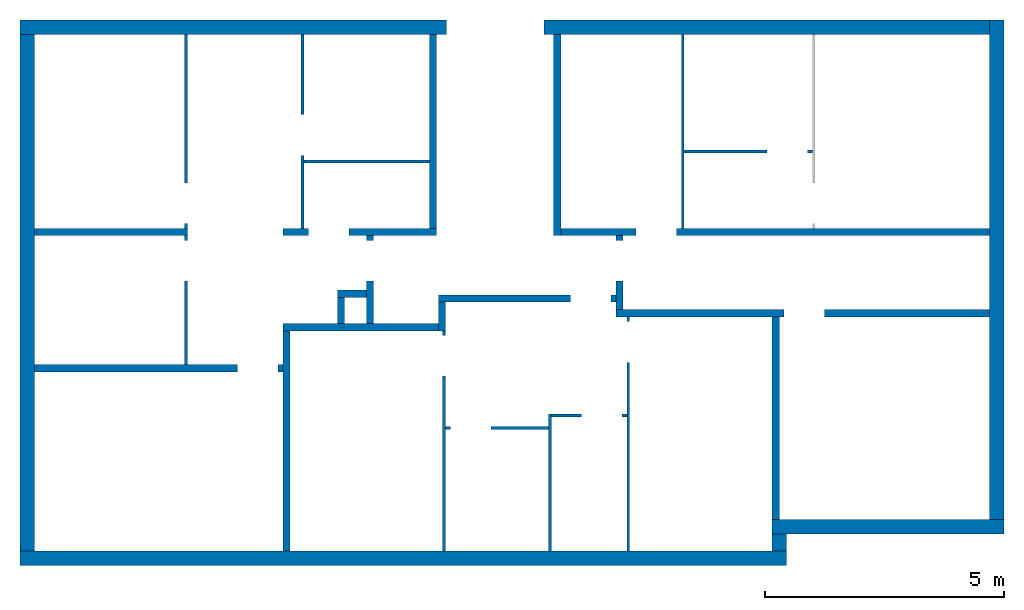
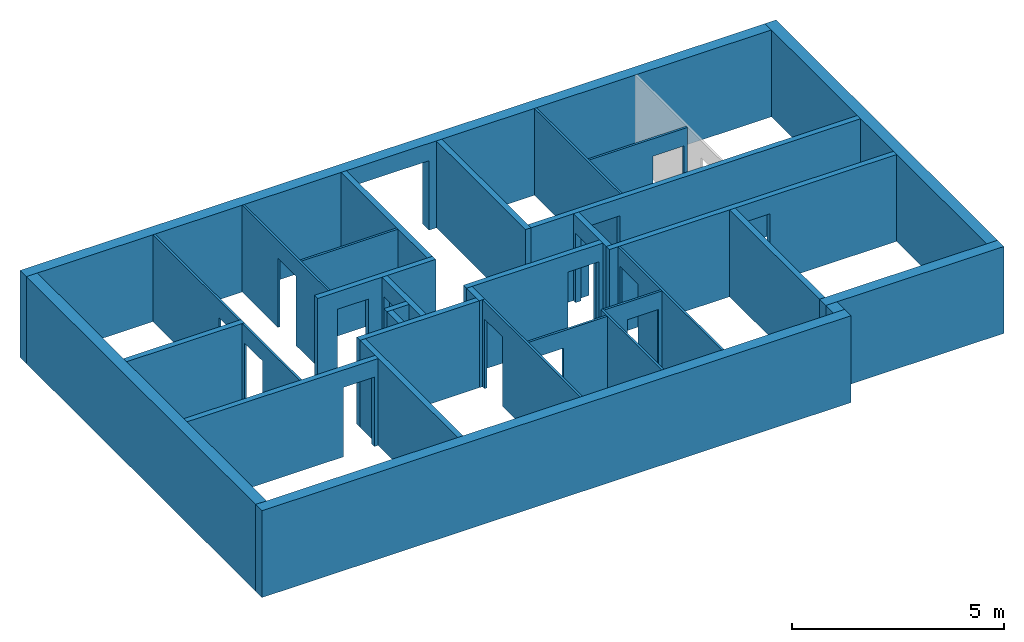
# One storey, part 1 of 2: 33 walls, 16 openings.
"""IFC2X3 building model written with IfcOpenShell, lengths in metres."""

from ifc_helpers import new_model, entity, si_unit, converted_unit, derived_unit, direction, frame, frame_2d, origin, origin_with_axes, place, context, subcontext, project, spatial, polyline, rectangle, outline, extrude, faceted_brep, material, layer, layer_set, layer_usage, element, save


model = new_model("IFC2X3")

# Units and contexts
model_context = context("Model", 3, precision=1e-05, world=origin(), true_north=direction((0.772621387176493, -0.634867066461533)))
body_context = subcontext(model_context, "Body", "Model", "MODEL_VIEW")
ifc_project = project(units=[si_unit("LENGTHUNIT", "METRE"), si_unit("AREAUNIT", "SQUARE_METRE"), si_unit("VOLUMEUNIT", "CUBIC_METRE"), si_unit("MASSUNIT", "GRAM", prefix="KILO"), converted_unit("PLANEANGLEUNIT", "DEGREE", entity("IfcPlaneAngleMeasure", 0.0174532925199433), si_unit("PLANEANGLEUNIT", "RADIAN"), dimensions=[0, 0, 0, 0, 0, 0, 0]), derived_unit("THERMALTRANSMITTANCEUNIT", [(si_unit("POWERUNIT", "WATT"), 1), (si_unit("THERMODYNAMICTEMPERATUREUNIT", "KELVIN"), -1), (si_unit("LENGTHUNIT", "METRE"), -2)]), derived_unit("VOLUMETRICFLOWRATEUNIT", [(si_unit("LENGTHUNIT", "METRE"), 3), (converted_unit("TIMEUNIT", "hour", entity("IfcTimeMeasure", 3600.0), si_unit("TIMEUNIT", "SECOND"), dimensions=[0, 0, 1, 0, 0, 0, 0]), -1), (si_unit("LENGTHUNIT", "METRE"), -1)])], contexts=[model_context])

# Site, building, storey
site_placement = place(None, origin())
site = spatial("IfcSite", under=ifc_project, at=site_placement, Name="Modelle auf dem Nullpunkt", CompositionType="ELEMENT")
building_placement = place(site_placement, origin())
building = spatial("IfcBuilding", under=site, at=building_placement, Name="H", CompositionType="ELEMENT")
storey_placement = place(building_placement, origin())
storey = spatial("IfcBuildingStorey", under=building, at=storey_placement, Name="EG", CompositionType="ELEMENT", Elevation=0.0)

# Walls
ifc_material_1 = material(Name="Béton")
ifc_layer_1 = layer(ifc_material_1, 0.300000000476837)
ifc_layer_set_1 = layer_set([ifc_layer_1])
ifc_layer_usage_1 = layer_usage(ifc_layer_set_1, "AXIS2", "POSITIVE", -8.82606763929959e-25)
wall_1_placement = place(storey_placement, frame((27.0338677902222, 2.22260620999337, 437.66), z_axis=(0.0, 0.0, 1.0), x_axis=(8.82214908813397e-11, -1.0, 0.0)))
element("IfcWallStandardCase", 1, at=wall_1_placement, inside=storey, material=ifc_layer_usage_1, Name="Betonwand", context=body_context, shape_type="SweptSolid", body=[
    extrude(rectangle(XDim=10.8099999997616, YDim=0.300000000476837, at=frame_2d((5.4049999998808, 0.150000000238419), x_axis=(1.0, 0.0))), origin_with_axes(), (0.0, 0.0, 1.0), 2.49999999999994),
])
ifc_material_2 = material(Name="Béton")
ifc_layer_2 = layer(ifc_material_2, 0.300000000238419)
ifc_layer_set_2 = layer_set([ifc_layer_2])
ifc_layer_usage_2 = layer_usage(ifc_layer_set_2, "AXIS2", "POSITIVE", 0.0)
wall_2_placement = place(storey_placement, frame((27.0338677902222, -8.88739379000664, 437.66), z_axis=(0.0, 0.0, 1.0), x_axis=(1.0, 8.92396428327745e-11, 0.0)))
element("IfcWallStandardCase", 2, at=wall_2_placement, inside=storey, material=ifc_layer_usage_2, Name="Betonwand", context=body_context, shape_type="SweptSolid", body=[
    extrude(rectangle(XDim=16.03, YDim=0.300000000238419, at=frame_2d((8.015, 0.150000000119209), x_axis=(1.0, 0.0))), origin_with_axes(), (0.0, 0.0, 1.0), 2.49999999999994),
])
ifc_material_3 = material(Name="Béton")
ifc_layer_3 = layer(ifc_material_3, 0.3)
ifc_layer_set_3 = layer_set([ifc_layer_3])
ifc_layer_usage_3 = layer_usage(ifc_layer_set_3, "AXIS2", "POSITIVE", -2.48907781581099e-20)
wall_3_placement = place(storey_placement, frame((42.7638677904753, -8.22739379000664, 437.66), z_axis=(0.0, 0.0, 1.0), x_axis=(1.0, 9.83169398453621e-11, 0.0)))
element("IfcWallStandardCase", 3, at=wall_3_placement, inside=storey, material=ifc_layer_usage_3, Name="Betonwand", context=body_context, shape_type="SweptSolid", body=[
    extrude(rectangle(XDim=4.84999999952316, YDim=0.3, at=frame_2d((2.42499999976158, 0.15), x_axis=(1.0, 0.0))), origin_with_axes(), (0.0, 0.0, 1.0), 2.49999999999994),
])
ifc_material_4 = material(Name="Béton")
ifc_layer_4 = layer(ifc_material_4, 0.3)
ifc_layer_set_4 = layer_set([ifc_layer_4])
ifc_layer_usage_4 = layer_usage(ifc_layer_set_4, "AXIS2", "POSITIVE", -1.3508308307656e-20)
wall_4_placement = place(storey_placement, frame((47.6138677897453, -7.92739379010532, 437.66), z_axis=(0.0, 0.0, 1.0), x_axis=(-1.36891050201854e-10, 1.0, 0.0)))
element("IfcWallStandardCase", 4, at=wall_4_placement, inside=storey, material=ifc_layer_usage_4, Name="Betonwand", context=body_context, shape_type="SweptSolid", body=[
    extrude(rectangle(XDim=10.45, YDim=0.3, at=frame_2d((5.225, 0.15), x_axis=(1.0, 0.0))), origin_with_axes(), (0.0, 0.0, 1.0), 2.49999999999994),
])
ifc_material_5 = material(Name="Béton")
ifc_layer_5 = layer(ifc_material_5, 0.299999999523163)
ifc_layer_set_5 = layer_set([ifc_layer_5])
ifc_layer_usage_5 = layer_usage(ifc_layer_set_5, "AXIS2", "POSITIVE", 0.0)
wall_5_placement = place(storey_placement, frame((43.0638677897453, -8.58739378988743, 437.66), z_axis=(0.0, 0.0, 1.0), x_axis=(0.0, 1.0, 0.0)))
element("IfcWallStandardCase", 5, at=wall_5_placement, inside=storey, material=ifc_layer_usage_5, Name="Betonwand", context=body_context, shape_type="SweptSolid", body=[
    extrude(rectangle(XDim=0.36, YDim=0.299999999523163, at=frame_2d((0.18, 0.149999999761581), x_axis=(1.0, 0.0))), origin_with_axes(), (0.0, 0.0, 1.0), 2.49999999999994),
])
ifc_material_6 = material(Name="Brique")
ifc_layer_6 = layer(ifc_material_6, 0.15)
ifc_layer_set_6 = layer_set([ifc_layer_6])
ifc_layer_usage_6 = layer_usage(ifc_layer_set_6, "AXIS2", "POSITIVE", 0.0)
wall_6_placement = place(storey_placement, frame((30.5393677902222, -1.83739379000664, 437.66), z_axis=(0.0, 0.0, 1.0), x_axis=(-1.0, 0.0, 0.0)))
element("IfcWallStandardCase", 6, at=wall_6_placement, inside=storey, material=ifc_layer_usage_6, context=body_context, shape_type="SweptSolid", body=[
    extrude(rectangle(XDim=3.2055, YDim=0.15, at=frame_2d((1.60275, 0.075), x_axis=(1.0, 0.0))), origin_with_axes(), (0.0, 0.0, 1.0), 2.49999999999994),
])
ifc_material_7 = material(Name="Brique")
ifc_layer_7 = layer(ifc_material_7, 0.15)
ifc_layer_set_7 = layer_set([ifc_layer_7])
ifc_layer_usage_7 = layer_usage(ifc_layer_set_7, "AXIS2", "POSITIVE", 0.0)
wall_7_placement = place(storey_placement, frame((35.7493677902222, -1.83739379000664, 437.66), z_axis=(0.0, 0.0, 1.0), x_axis=(-1.17447575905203e-10, 1.0, 0.0)))
element("IfcWallStandardCase", 7, at=wall_7_placement, inside=storey, material=ifc_layer_usage_7, context=body_context, shape_type="SweptSolid", body=[
    extrude(rectangle(XDim=4.06000000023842, YDim=0.15, at=frame_2d((2.03000000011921, 0.075), x_axis=(1.0, 0.0))), origin_with_axes(), (0.0, 0.0, 1.0), 2.49999999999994),
])
ifc_material_8 = material(Name="Brique")
ifc_layer_8 = layer(ifc_material_8, 0.15)
ifc_layer_set_8 = layer_set([ifc_layer_8])
ifc_layer_usage_8 = layer_usage(ifc_layer_set_8, "AXIS2", "POSITIVE", 0.0)
wall_8_placement = place(storey_placement, frame((42.7638677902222, -3.68739379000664, 437.66), z_axis=(0.0, 0.0, 1.0), x_axis=(1.12461593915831e-10, -1.0, 0.0)))
element("IfcWallStandardCase", 8, at=wall_8_placement, inside=storey, material=ifc_layer_usage_8, context=body_context, shape_type="SweptSolid", body=[
    extrude(rectangle(XDim=4.24, YDim=0.15, at=frame_2d((2.12, 0.075), x_axis=(1.0, 0.0))), origin_with_axes(), (0.0, 0.0, 1.0), 2.49999999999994),
])
ifc_material_9 = material(Name="Brique")
ifc_layer_9 = layer(ifc_material_9, 0.150000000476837)
ifc_layer_set_9 = layer_set([ifc_layer_9])
ifc_layer_usage_9 = layer_usage(ifc_layer_set_9, "AXIS2", "POSITIVE", 0.0)
wall_9_placement = place(storey_placement, frame((32.6843677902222, -8.58739379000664, 437.66), z_axis=(0.0, 0.0, 1.0), x_axis=(0.0, 1.0, 0.0)))
element("IfcWallStandardCase", 9, at=wall_9_placement, inside=storey, material=ifc_layer_usage_9, context=body_context, shape_type="SweptSolid", body=[
    extrude(rectangle(XDim=4.61, YDim=0.150000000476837, at=frame_2d((2.305, 0.0750000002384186), x_axis=(1.0, 0.0))), origin_with_axes(), (0.0, 0.0, 1.0), 2.49999999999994),
])
ifc_material_10 = material(Name="Brique")
ifc_layer_10 = layer(ifc_material_10, 0.15)
ifc_layer_set_10 = layer_set([ifc_layer_10])
ifc_layer_usage_10 = layer_usage(ifc_layer_set_10, "AXIS2", "POSITIVE", -1.25393518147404e-20)
wall_10_placement = place(storey_placement, frame((38.1938677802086, 2.22260621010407, 437.66), z_axis=(0.0, 0.0, 1.0), x_axis=(1.1326298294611e-10, -1.0, 0.0)))
element("IfcWallStandardCase", 10, at=wall_10_placement, inside=storey, material=ifc_layer_usage_10, context=body_context, shape_type="SweptSolid", body=[
    extrude(rectangle(XDim=4.21, YDim=0.15, at=frame_2d((2.105, 0.075), x_axis=(1.0, 0.0))), origin_with_axes(), (0.0, 0.0, 1.0), 2.49999999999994),
])
ifc_material_11 = material(Name="Brique")
ifc_layer_11 = layer(ifc_material_11, 0.15)
ifc_layer_set_11 = layer_set([ifc_layer_11])
ifc_layer_usage_11 = layer_usage(ifc_layer_set_11, "AXIS2", "POSITIVE", 0.0)
wall_11_placement = place(storey_placement, frame((35.9338677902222, -3.97739379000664, 437.66), z_axis=(0.0, 0.0, 1.0), x_axis=(0.0, 1.0, 0.0)))
element("IfcWallStandardCase", 11, at=wall_11_placement, inside=storey, material=ifc_layer_usage_11, context=body_context, shape_type="SweptSolid", body=[
    extrude(rectangle(XDim=0.6, YDim=0.15, at=frame_2d((0.3, 0.075), x_axis=(1.0, 0.0))), origin_with_axes(), (0.0, 0.0, 1.0), 2.49999999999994),
])

# Wall, opening
ifc_material_12 = material(Name="Brique")
ifc_layer_12 = layer(ifc_material_12, 0.15)
ifc_layer_set_12 = layer_set([ifc_layer_12])
ifc_layer_usage_12 = layer_usage(ifc_layer_set_12, "AXIS2", "POSITIVE", 0.0)
wall_12_placement = place(storey_placement, frame((39.4938677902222, -1.98739378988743, 437.66), z_axis=(0.0, 0.0, 1.0), x_axis=(0.0, -1.0, 0.0)))
wall_12 = element("IfcWallStandardCase", 12, at=wall_12_placement, inside=storey, material=ifc_layer_usage_12, context=body_context, shape_type="SweptSolid", body=[
    extrude(rectangle(XDim=1.55000000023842, YDim=0.15, at=frame_2d((0.77500000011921, 0.075), x_axis=(1.0, 0.0))), origin_with_axes(), (0.0, 0.0, 1.0), 2.49999999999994),
])
opening_1_placement = place(wall_12_placement, frame((0.100000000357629, 0.0, 0.0), z_axis=(0.0, 1.0, 0.0), x_axis=(0.0, 0.0, 1.0)))
element("IfcOpeningElement", 13, at=opening_1_placement, cuts=wall_12, Name="Türöffnung", ObjectType="Opening", context=body_context, shape_type="SweptSolid", body=[
    extrude(outline(polyline([(2.0, 0.85), (2.0, 0.0), (0.0, 0.0), (0.0, 0.85), (2.0, 0.85)])), origin_with_axes(), (0.0, 0.0, 1.0), 0.15),
])

ifc_material_13 = material(Name="Brique")
ifc_layer_13 = layer(ifc_material_13, 0.15)
ifc_layer_set_13 = layer_set([ifc_layer_13])
ifc_layer_usage_13 = layer_usage(ifc_layer_set_13, "AXIS2", "POSITIVE", 0.0)
wall_13_placement = place(storey_placement, frame((35.7493677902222, -1.83739379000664, 437.66), z_axis=(0.0, 0.0, 1.0), x_axis=(-1.0, 0.0, 0.0)))
wall_13 = element("IfcWallStandardCase", 14, at=wall_13_placement, inside=storey, material=ifc_layer_usage_13, context=body_context, shape_type="SweptSolid", body=[
    extrude(rectangle(XDim=3.215, YDim=0.15, at=frame_2d((1.6075, 0.075), x_axis=(1.0, 0.0))), origin_with_axes(), (0.0, 0.0, 1.0), 2.49999999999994),
])
opening_2_placement = place(wall_13_placement, frame((1.83, 0.0, 0.0), z_axis=(0.0, 1.0, 0.0), x_axis=(0.0, 0.0, 1.0)))
element("IfcOpeningElement", 15, at=opening_2_placement, cuts=wall_13, Name="Türöffnung", ObjectType="Opening", context=body_context, shape_type="SweptSolid", body=[
    extrude(outline(polyline([(2.0, 0.850000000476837), (2.0, 0.0), (0.0, 0.0), (0.0, 0.850000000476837), (2.0, 0.850000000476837)])), origin_with_axes(), (0.0, 0.0, 1.0), 0.15),
])

# Walls
ifc_material_14 = material(Name="Brique")
ifc_layer_14 = layer(ifc_material_14, 0.15)
ifc_layer_set_14 = layer_set([ifc_layer_14])
ifc_layer_usage_14 = layer_usage(ifc_layer_set_14, "AXIS2", "POSITIVE", -1.67794221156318e-16)
wall_14_placement = place(storey_placement, frame((32.5343677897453, -3.97739379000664, 437.66), z_axis=(0.0, 0.0, 1.0), x_axis=(1.0, 7.33708506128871e-11, 0.0)))
element("IfcWallStandardCase", 16, at=wall_14_placement, inside=storey, material=ifc_layer_usage_14, context=body_context, shape_type="SweptSolid", body=[
    extrude(rectangle(XDim=3.24950000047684, YDim=0.15, at=frame_2d((1.62475000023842, 0.075), x_axis=(1.0, 0.0))), origin_with_axes(), (0.0, 0.0, 1.0), 2.49999999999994),
])
ifc_material_15 = material(Name="Brique")
ifc_layer_15 = layer(ifc_material_15, 0.15)
ifc_layer_set_15 = layer_set([ifc_layer_15])
ifc_layer_usage_15 = layer_usage(ifc_layer_set_15, "AXIS2", "POSITIVE", 0.0)
wall_15_placement = place(storey_placement, frame((33.8243677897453, -3.82739379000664, 437.66), z_axis=(0.0, 0.0, 1.0), x_axis=(0.0, 1.0, 0.0)))
element("IfcWallStandardCase", 17, at=wall_15_placement, inside=storey, material=ifc_layer_usage_15, context=body_context, shape_type="SweptSolid", body=[
    extrude(rectangle(XDim=0.55, YDim=0.15, at=frame_2d((0.275, 0.075), x_axis=(1.0, 0.0))), origin_with_axes(), (0.0, 0.0, 1.0), 2.49999999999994),
])
ifc_material_16 = material(Name="Brique")
ifc_layer_16 = layer(ifc_material_16, 0.15)
ifc_layer_set_16 = layer_set([ifc_layer_16])
ifc_layer_usage_16 = layer_usage(ifc_layer_set_16, "AXIS2", "POSITIVE", 0.0)
wall_16_placement = place(storey_placement, frame((33.6743677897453, -3.27739379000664, 437.66)))
element("IfcWallStandardCase", 18, at=wall_16_placement, inside=storey, material=ifc_layer_usage_16, context=body_context, shape_type="SweptSolid", body=[
    extrude(rectangle(XDim=0.6045, YDim=0.15, at=frame_2d((0.30225, 0.075), x_axis=(1.0, 0.0))), origin_with_axes(), (0.0, 0.0, 1.0), 2.49999999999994),
])

# Wall, opening
ifc_material_17 = material(Name="Brique")
ifc_layer_17 = layer(ifc_material_17, 0.15)
ifc_layer_set_17 = layer_set([ifc_layer_17])
ifc_layer_usage_17 = layer_usage(ifc_layer_set_17, "AXIS2", "POSITIVE", 0.0)
wall_17_placement = place(storey_placement, frame((34.4288677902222, -3.82739378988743, 437.66), z_axis=(0.0, 0.0, 1.0), x_axis=(0.0, 1.0, 0.0)))
wall_17 = element("IfcWallStandardCase", 19, at=wall_17_placement, inside=storey, material=ifc_layer_usage_17, context=body_context, shape_type="SweptSolid", body=[
    extrude(rectangle(XDim=1.84, YDim=0.15, at=frame_2d((0.92, 0.075), x_axis=(1.0, 0.0))), origin_with_axes(), (0.0, 0.0, 1.0), 2.49999999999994),
])
opening_3_placement = place(wall_17_placement, frame((0.889999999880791, 0.0, 0.0), z_axis=(0.0, 1.0, 0.0), x_axis=(0.0, 0.0, 1.0)))
element("IfcOpeningElement", 20, at=opening_3_placement, cuts=wall_17, Name="Türöffnung", ObjectType="Opening", context=body_context, shape_type="SweptSolid", body=[
    extrude(outline(polyline([(2.0, 0.85), (2.0, 0.0), (0.0, 0.0), (0.0, 0.85), (2.0, 0.85)])), origin_with_axes(), (0.0, 0.0, 1.0), 0.15),
])

# Walls
ifc_material_18 = material(Name="Brique")
ifc_layer_18 = layer(ifc_material_18, 0.0599999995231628)
ifc_layer_set_18 = layer_set([ifc_layer_18])
ifc_layer_usage_18 = layer_usage(ifc_layer_set_18, "AXIS2", "POSITIVE", -2.06335384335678e-20)
wall_18_placement = place(storey_placement, frame((38.1488677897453, -8.58739378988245, 437.66), z_axis=(0.0, 0.0, 1.0), x_axis=(-1.6614535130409e-10, 1.0, 0.0)))
element("IfcWallStandardCase", 21, at=wall_18_placement, inside=storey, material=ifc_layer_usage_18, context=body_context, shape_type="SweptSolid", body=[
    extrude(rectangle(XDim=2.86999999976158, YDim=0.0599999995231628, at=frame_2d((1.43499999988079, 0.0299999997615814), x_axis=(1.0, 0.0))), origin_with_axes(), (0.0, 0.0, 1.0), 2.49999999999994),
])
ifc_material_19 = material(Name="Brique")
ifc_layer_19 = layer(ifc_material_19, 0.06)
ifc_layer_set_19 = layer_set([ifc_layer_19])
ifc_layer_usage_19 = layer_usage(ifc_layer_set_19, "AXIS2", "POSITIVE", -2.18601541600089e-20)
wall_19_placement = place(storey_placement, frame((35.599367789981, -0.407393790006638, 437.66), z_axis=(0.0, 0.0, 1.0), x_axis=(-1.0, -9.06534521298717e-11, 0.0)))
element("IfcWallStandardCase", 22, at=wall_19_placement, inside=storey, material=ifc_layer_usage_19, context=body_context, shape_type="SweptSolid", body=[
    extrude(rectangle(XDim=2.63, YDim=0.06, at=frame_2d((1.315, 0.03), x_axis=(1.0, 0.0))), origin_with_axes(), (0.0, 0.0, 1.0), 2.49999999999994),
])

# Wall, opening
ifc_material_20 = material(Name="Brique")
ifc_layer_20 = layer(ifc_material_20, 0.06)
ifc_layer_set_20 = layer_set([ifc_layer_20])
ifc_layer_usage_20 = layer_usage(ifc_layer_set_20, "AXIS2", "POSITIVE", 0.0)
wall_20_placement = place(storey_placement, frame((35.9338677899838, -6.03739379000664, 437.66)))
wall_20 = element("IfcWallStandardCase", 23, at=wall_20_placement, inside=storey, material=ifc_layer_usage_20, context=body_context, shape_type="SweptSolid", body=[
    extrude(rectangle(XDim=2.155, YDim=0.06, at=frame_2d((1.0775, 0.03), x_axis=(1.0, 0.0))), origin_with_axes(), (0.0, 0.0, 1.0), 2.49999999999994),
])
opening_4_placement = place(wall_20_placement, frame((0.100000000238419, 0.0, 0.0), z_axis=(0.0, 1.0, 0.0), x_axis=(0.0, 0.0, 1.0)))
element("IfcOpeningElement", 24, at=opening_4_placement, cuts=wall_20, Name="Türöffnung", ObjectType="Opening", context=body_context, shape_type="SweptSolid", body=[
    extrude(outline(polyline([(2.0, 0.85), (2.0, 0.0), (0.0, 0.0), (0.0, 0.85), (2.0, 0.85)])), origin_with_axes(), (0.0, 0.0, 1.0), 0.06),
])

# Wall
ifc_material_21 = material(Name="Brique")
ifc_layer_21 = layer(ifc_material_21, 0.06)
ifc_layer_set_21 = layer_set([ifc_layer_21])
ifc_layer_usage_21 = layer_usage(ifc_layer_set_21, "AXIS2", "POSITIVE", -1.3587456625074e-20)
wall_21_placement = place(storey_placement, frame((40.9238677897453, -1.83739379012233, 437.66), z_axis=(0.0, 0.0, 1.0), x_axis=(-1.174475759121e-10, 1.0, 0.0)))
element("IfcWallStandardCase", 25, at=wall_21_placement, inside=storey, material=ifc_layer_usage_21, context=body_context, shape_type="SweptSolid", body=[
    extrude(rectangle(XDim=4.06, YDim=0.06, at=frame_2d((2.03, 0.03), x_axis=(1.0, 0.0))), origin_with_axes(), (0.0, 0.0, 1.0), 2.49999999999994),
])

# Wall, opening
ifc_material_22 = material(Name="Brique")
wall_22_placement = place(storey_placement, frame((39.4938677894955, -3.68739379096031, 437.66)))
wall_22 = element("IfcWall", 26, at=wall_22_placement, inside=storey, material=ifc_material_22, context=body_context, shape_type="Brep", body=[
    faceted_brep([(7.82000000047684, 0.150000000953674, 0.0), (7.82000000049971, 0.0, 0.0), (7.82000000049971, 0.0, 2.49999999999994), (7.82000000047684, 0.150000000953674, 2.49999999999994), (0.0, 0.0, 0.0), (0.0, 0.0, 2.49999999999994), (0.0, 0.149999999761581, 0.0), (0.0, 0.149999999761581, 2.49999999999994)], [[[0, 1, 2, 3]], [[1, 4, 5, 2]], [[4, 6, 7, 5]], [[6, 0, 3, 7]], [[3, 2, 5, 7]], [[0, 6, 4, 1]]], orient=[[False], [False], [False], [False], [False], [False]]),
])
opening_5_placement = place(wall_22_placement, frame((3.52000000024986, 0.0, 0.0)))
element("IfcOpeningElement", 27, at=opening_5_placement, cuts=wall_22, ObjectType="Opening", context=body_context, shape_type="Brep", body=[
    faceted_brep([(0.85, 0.0, 0.0), (0.0, 0.0, 0.0), (0.0, 0.0, 2.0), (0.85, 0.0, 2.0), (0.85, 0.15, 0.0), (0.85, 0.15, 2.0), (0.0, 0.150000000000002, 2.0), (0.0, 0.150000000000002, 0.0)], [[[0, 1, 2, 3]], [[4, 5, 6, 7]], [[1, 0, 4, 7]], [[2, 1, 7, 6]], [[3, 2, 6, 5]], [[0, 3, 5, 4]]], orient=[[False], [False], [False], [False], [False], [False]]),
])

ifc_material_23 = material(Name="Brique")
wall_23_placement = place(storey_placement, frame((27.3338677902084, -4.83739379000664, 437.66)))
wall_23 = element("IfcWall", 28, at=wall_23_placement, inside=storey, material=ifc_material_23, context=body_context, shape_type="Brep", body=[
    faceted_brep([(0.0, 0.0, 0.0), (0.0, 0.15, 0.0), (0.0, 0.15, 2.49999999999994), (0.0, 0.0, 2.49999999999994), (5.20050000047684, 0.150000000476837, 0.0), (5.20050000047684, 0.150000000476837, 2.49999999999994), (5.2005000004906, 0.0, 0.0), (5.2005000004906, 0.0, 2.49999999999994)], [[[0, 1, 2, 3]], [[1, 4, 5, 2]], [[4, 6, 7, 5]], [[6, 0, 3, 7]], [[3, 2, 5, 7]], [[0, 6, 4, 1]]], orient=[[False], [False], [False], [False], [False], [False]]),
])
opening_6_placement = place(wall_23_placement, frame((4.25050000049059, 0.0, 0.0)))
element("IfcOpeningElement", 29, at=opening_6_placement, cuts=wall_23, ObjectType="Opening", context=body_context, shape_type="Brep", body=[
    faceted_brep([(0.85, 0.15, 0.0), (0.85, 0.15, 2.0), (0.0, 0.149999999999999, 2.0), (0.0, 0.149999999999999, 0.0), (0.85, 0.0, 0.0), (0.0, 0.0, 0.0), (0.0, 0.0, 2.0), (0.85, 0.0, 2.0)], [[[0, 1, 2, 3]], [[4, 5, 6, 7]], [[3, 5, 4, 0]], [[2, 6, 5, 3]], [[1, 7, 6, 2]], [[0, 4, 7, 1]]], orient=[[False], [False], [False], [False], [False], [False]]),
])

ifc_material_24 = material(Name="Brique")
wall_24_placement = place(storey_placement, frame((30.4793677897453, -1.83739378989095, 437.66)))
wall_24 = element("IfcWall", 30, at=wall_24_placement, inside=storey, material=ifc_material_24, context=body_context, shape_type="Brep", body=[
    faceted_brep([(0.0600000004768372, 0.0, 0.0), (0.0, 0.0, 0.0), (0.0, 0.0, 2.49999999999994), (0.0600000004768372, 0.0, 2.49999999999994), (0.0, 4.06, 0.0), (0.0, 4.06, 2.49999999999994), (0.06, 4.06000000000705, 0.0), (0.06, 4.06000000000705, 2.49999999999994)], [[[0, 1, 2, 3]], [[1, 4, 5, 2]], [[4, 6, 7, 5]], [[6, 0, 3, 7]], [[3, 2, 5, 7]], [[0, 6, 4, 1]]], orient=[[False], [False], [False], [False], [False], [False]]),
])
opening_7_placement = place(wall_24_placement, frame((0.0, 0.100000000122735, 0.0)))
element("IfcOpeningElement", 31, at=opening_7_placement, cuts=wall_24, ObjectType="Opening", context=body_context, shape_type="Brep", body=[
    faceted_brep([(0.06, 0.0, 0.0), (0.06, 0.0, 2.0), (0.06, 0.85, 2.0), (0.06, 0.85, 0.0), (0.0, 0.0, 0.0), (0.0, 0.85, 0.0), (0.0, 0.85, 2.0), (0.0, 0.0, 2.0)], [[[0, 1, 2, 3]], [[4, 5, 6, 7]], [[3, 5, 4, 0]], [[2, 6, 5, 3]], [[1, 7, 6, 2]], [[0, 4, 7, 1]]], orient=[[False], [False], [False], [False], [False], [False]]),
])

ifc_material_25 = material(Name="Brique")
wall_25_placement = place(storey_placement, frame((32.9093677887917, -1.83739379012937, 437.66)))
wall_25 = element("IfcWall", 32, at=wall_25_placement, inside=storey, material=ifc_material_25, context=body_context, shape_type="Brep", body=[
    faceted_brep([(0.0600000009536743, 0.0, 0.0), (0.0, 0.0, 0.0), (0.0, 0.0, 2.49999999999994), (0.0600000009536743, 0.0, 2.49999999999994), (0.0, 4.06, 0.0), (0.0, 4.06, 2.49999999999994), (0.0600000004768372, 4.06000000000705, 0.0), (0.0600000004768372, 4.06000000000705, 2.49999999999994)], [[[0, 1, 2, 3]], [[1, 4, 5, 2]], [[4, 6, 7, 5]], [[6, 0, 3, 7]], [[3, 2, 5, 7]], [[0, 6, 4, 1]]], orient=[[False], [False], [False], [False], [False], [False]]),
])
opening_8_placement = place(wall_25_placement, frame((0.0, 1.52999999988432, 0.0)))
element("IfcOpeningElement", 33, at=opening_8_placement, cuts=wall_25, ObjectType="Opening", context=body_context, shape_type="Brep", body=[
    faceted_brep([(0.0600000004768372, 0.0, 0.0), (0.0600000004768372, 0.0, 2.0), (0.0600000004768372, 0.85, 2.0), (0.0600000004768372, 0.85, 0.0), (0.0, 0.0, 0.0), (0.0, 0.85, 0.0), (0.0, 0.85, 2.0), (0.0, 0.0, 2.0)], [[[0, 1, 2, 3]], [[4, 5, 6, 7]], [[3, 5, 4, 0]], [[2, 6, 5, 3]], [[1, 7, 6, 2]], [[0, 4, 7, 1]]], orient=[[False], [False], [False], [False], [False], [False]]),
])

ifc_material_26 = material(Name="Béton")
wall_26_placement = place(storey_placement, frame((27.0338677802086, 2.2226062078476, 437.66)))
wall_26 = element("IfcWall", 34, at=wall_26_placement, inside=storey, material=ifc_material_26, Name="Betonwand", context=body_context, shape_type="Brep", body=[
    faceted_brep([(20.28, 0.300000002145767, 0.0), (20.2800000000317, 0.0, 0.0), (20.2800000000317, 0.0, 2.49999999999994), (20.28, 0.300000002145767, 2.49999999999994), (0.0, 0.0, 0.0), (0.0, 0.0, 2.49999999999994), (0.0, 0.3, 0.0), (0.0, 0.3, 2.49999999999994)], [[[0, 1, 2, 3]], [[1, 4, 5, 2]], [[4, 6, 7, 5]], [[6, 0, 3, 7]], [[3, 2, 5, 7]], [[0, 6, 4, 1]]], orient=[[False], [False], [False], [False], [False], [False]]),
])
opening_9_placement = place(wall_26_placement, frame((8.91550000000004, 0.0, 0.0)))
element("IfcOpeningElement", 35, at=opening_9_placement, cuts=wall_26, ObjectType="Opening", context=body_context, shape_type="Brep", body=[
    faceted_brep([(2.04449999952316, 0.0, 0.0), (0.0, 0.0, 0.0), (0.0, 0.0, 2.0), (2.04449999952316, 0.0, 2.0), (2.04449999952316, 0.299999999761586, 0.0), (2.04449999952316, 0.299999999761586, 2.0), (0.0, 0.299999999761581, 2.0), (0.0, 0.299999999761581, 0.0)], [[[0, 1, 2, 3]], [[4, 5, 6, 7]], [[1, 0, 4, 7]], [[2, 1, 7, 6]], [[3, 2, 6, 5]], [[0, 3, 5, 4]]], orient=[[False], [False], [False], [False], [False], [False]]),
])

ifc_material_27 = material(Name="Brique")
wall_27_placement = place(storey_placement, frame((40.9238677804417, -0.257393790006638, 437.66)))
wall_27 = element("IfcWall", 36, at=wall_27_placement, inside=storey, material=ifc_material_27, context=body_context, shape_type="Brep", body=[
    faceted_brep([(2.68, 0.0600000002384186, 0.0), (2.68000000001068, 0.0, 0.0), (2.68000000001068, 0.0, 2.49999999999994), (2.68, 0.0600000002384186, 2.49999999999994), (0.0, 0.0, 0.0), (0.0, 0.0, 2.49999999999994), (0.0, 0.0599999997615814, 0.0), (0.0, 0.0599999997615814, 2.49999999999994)], [[[0, 1, 2, 3]], [[1, 4, 5, 2]], [[4, 6, 7, 5]], [[6, 0, 3, 7]], [[3, 2, 5, 7]], [[0, 6, 4, 1]]], orient=[[False], [False], [False], [False], [False], [False]]),
])
opening_10_placement = place(wall_27_placement, frame((1.72999999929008, 0.0, 0.0)))
element("IfcOpeningElement", 37, at=opening_10_placement, cuts=wall_27, ObjectType="Opening", context=body_context, shape_type="Brep", body=[
    faceted_brep([(0.850000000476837, 0.06, 0.0), (0.850000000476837, 0.06, 2.0), (0.0, 0.0600000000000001, 2.0), (0.0, 0.0600000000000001, 0.0), (0.850000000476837, 0.0, 0.0), (0.0, 0.0, 0.0), (0.0, 0.0, 2.0), (0.850000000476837, 0.0, 2.0)], [[[0, 1, 2, 3]], [[4, 5, 6, 7]], [[3, 5, 4, 0]], [[2, 6, 5, 3]], [[1, 7, 6, 2]], [[0, 4, 7, 1]]], orient=[[False], [False], [False], [False], [False], [False]]),
])

ifc_material_28 = material(Name="Brique")
wall_28_placement = place(storey_placement, frame((38.1488677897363, -5.77739379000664, 437.66)))
wall_28 = element("IfcWall", 38, at=wall_28_placement, inside=storey, material=ifc_material_28, context=body_context, shape_type="Brep", body=[
    faceted_brep([(0.0, 0.0, 0.0), (0.0, 0.0599999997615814, 0.0), (0.0, 0.0599999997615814, 2.49999999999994), (0.0, 0.0, 2.49999999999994), (1.575, 0.06, 0.0), (1.575, 0.06, 2.49999999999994), (1.57500000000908, 0.0, 0.0), (1.57500000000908, 0.0, 2.49999999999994)], [[[0, 1, 2, 3]], [[1, 4, 5, 2]], [[4, 6, 7, 5]], [[6, 0, 3, 7]], [[3, 2, 5, 7]], [[0, 6, 4, 1]]], orient=[[False], [False], [False], [False], [False], [False]]),
])
opening_11_placement = place(wall_28_placement, frame((0.62500000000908, 0.0, 0.0)))
element("IfcOpeningElement", 39, at=opening_11_placement, cuts=wall_28, ObjectType="Opening", context=body_context, shape_type="Brep", body=[
    faceted_brep([(0.85, 0.0600000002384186, 0.0), (0.85, 0.0600000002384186, 2.0), (0.0, 0.0600000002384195, 2.0), (0.0, 0.0600000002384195, 0.0), (0.85, 0.0, 0.0), (0.0, 0.0, 0.0), (0.0, 0.0, 2.0), (0.85, 0.0, 2.0)], [[[0, 1, 2, 3]], [[4, 5, 6, 7]], [[3, 5, 4, 0]], [[2, 6, 5, 3]], [[1, 7, 6, 2]], [[0, 4, 7, 1]]], orient=[[False], [False], [False], [False], [False], [False]]),
])

ifc_material_29 = material(Name="Brique")
wall_29_placement = place(storey_placement, frame((38.3438677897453, -1.98739379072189, 437.66)))
wall_29 = element("IfcWall", 40, at=wall_29_placement, inside=storey, material=ifc_material_29, context=body_context, shape_type="Brep", body=[
    faceted_brep([(8.97, 0.150000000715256, 0.0), (8.97000000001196, 0.0, 0.0), (8.97000000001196, 0.0, 2.49999999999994), (8.97, 0.150000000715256, 2.49999999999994), (0.0, 0.0, 0.0), (0.0, 0.0, 2.49999999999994), (0.0, 0.15, 0.0), (0.0, 0.15, 2.49999999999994)], [[[0, 1, 2, 3]], [[1, 4, 5, 2]], [[4, 6, 7, 5]], [[6, 0, 3, 7]], [[3, 2, 5, 7]], [[0, 6, 4, 1]]], orient=[[False], [False], [False], [False], [False], [False]]),
])
opening_12_placement = place(wall_29_placement, frame((1.57, 0.0, 0.0)))
element("IfcOpeningElement", 41, at=opening_12_placement, cuts=wall_29, ObjectType="Opening", context=body_context, shape_type="Brep", body=[
    faceted_brep([(0.85, 0.15, 0.0), (0.85, 0.15, 2.0), (0.0, 0.15, 2.0), (0.0, 0.15, 0.0), (0.85, 0.0, 0.0), (0.0, 0.0, 0.0), (0.0, 0.0, 2.0), (0.85, 0.0, 2.0)], [[[0, 1, 2, 3]], [[4, 5, 6, 7]], [[3, 5, 4, 0]], [[2, 6, 5, 3]], [[1, 7, 6, 2]], [[0, 4, 7, 1]]], orient=[[False], [False], [False], [False], [False], [False]]),
])

ifc_material_30 = material(Name="Brique")
wall_30_placement = place(storey_placement, frame((39.7238677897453, -8.58739378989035, 437.66)))
wall_30 = element("IfcWall", 42, at=wall_30_placement, inside=storey, material=ifc_material_30, context=body_context, shape_type="Brep", body=[
    faceted_brep([(0.0600000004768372, 0.0, 0.0), (0.0, 0.0, 0.0), (0.0, 0.0, 2.49999999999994), (0.0600000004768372, 0.0, 2.49999999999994), (0.0, 4.9, 0.0), (0.0, 4.9, 2.49999999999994), (0.06, 4.90000000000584, 0.0), (0.06, 4.90000000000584, 2.49999999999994)], [[[0, 1, 2, 3]], [[1, 4, 5, 2]], [[4, 6, 7, 5]], [[6, 0, 3, 7]], [[3, 2, 5, 7]], [[0, 6, 4, 1]]], orient=[[False], [False], [False], [False], [False], [False]]),
])
opening_13_placement = place(wall_30_placement, frame((0.0, 3.94999999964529, 0.0)))
element("IfcOpeningElement", 43, at=opening_13_placement, cuts=wall_30, ObjectType="Opening", context=body_context, shape_type="Brep", body=[
    faceted_brep([(0.0, 0.850000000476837, 0.0), (0.0, 0.850000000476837, 2.0), (0.0, 0.0, 2.0), (0.0, 0.0, 0.0), (0.0599999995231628, 0.850000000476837, 0.0), (0.0599999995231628, 0.0, 0.0), (0.0599999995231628, 0.0, 2.0), (0.0599999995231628, 0.850000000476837, 2.0)], [[[0, 1, 2, 3]], [[4, 5, 6, 7]], [[3, 5, 4, 0]], [[2, 6, 5, 3]], [[1, 7, 6, 2]], [[0, 4, 7, 1]]], orient=[[False], [False], [False], [False], [False], [False]]),
])

ifc_material_31 = material(Name="Brique")
wall_31_placement = place(storey_placement, frame((30.4793677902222, -4.68739379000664, 437.66)))
wall_31 = element("IfcWall", 44, at=wall_31_placement, inside=storey, material=ifc_material_31, context=body_context, shape_type="Brep", body=[
    faceted_brep([(0.0, 2.7, 0.0), (0.06, 2.7000000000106, 0.0), (0.06, 2.7000000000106, 2.49999999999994), (0.0, 2.7, 2.49999999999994), (0.0600000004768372, 0.0, 0.0), (0.0600000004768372, 0.0, 2.49999999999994), (0.0, 0.0, 0.0), (0.0, 0.0, 2.49999999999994)], [[[0, 1, 2, 3]], [[1, 4, 5, 2]], [[4, 6, 7, 5]], [[6, 0, 3, 7]], [[3, 2, 5, 7]], [[0, 6, 4, 1]]], orient=[[False], [False], [False], [False], [False], [False]]),
])
opening_14_placement = place(wall_31_placement, frame((0.0, 1.75, 0.0)))
element("IfcOpeningElement", 45, at=opening_14_placement, cuts=wall_31, ObjectType="Opening", context=body_context, shape_type="Brep", body=[
    faceted_brep([(0.0, 0.0, 0.0), (0.0, 0.85, 0.0), (0.0, 0.85, 2.0), (0.0, 0.0, 2.0), (0.0599999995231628, 0.0, 0.0), (0.0599999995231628, 0.0, 2.0), (0.0599999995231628, 0.85, 2.0), (0.0599999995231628, 0.85, 0.0)], [[[0, 1, 2, 3]], [[4, 5, 6, 7]], [[1, 0, 4, 7]], [[2, 1, 7, 6]], [[3, 2, 6, 5]], [[0, 3, 5, 4]]], orient=[[False], [False], [False], [False], [False], [False]]),
])

ifc_material_32 = material(Name="Brique")
wall_32_placement = place(storey_placement, frame((35.7838677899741, -3.37739379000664, 437.66)))
wall_32 = element("IfcWall", 46, at=wall_32_placement, inside=storey, material=ifc_material_32, context=body_context, shape_type="Brep", body=[
    faceted_brep([(0.0, 0.0, 0.0), (0.0, 0.149999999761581, 0.0), (0.0, 0.149999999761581, 2.49999999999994), (0.0, 0.0, 2.49999999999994), (3.71000000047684, 0.150000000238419, 0.0), (3.71000000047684, 0.150000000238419, 2.49999999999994), (3.71000000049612, 0.0, 0.0), (3.71000000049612, 0.0, 2.49999999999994)], [[[0, 1, 2, 3]], [[1, 4, 5, 2]], [[4, 6, 7, 5]], [[6, 0, 3, 7]], [[3, 2, 5, 7]], [[0, 6, 4, 1]]], orient=[[False], [False], [False], [False], [False], [False]]),
])
opening_15_placement = place(wall_32_placement, frame((2.75999999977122, 0.0, 0.0)))
element("IfcOpeningElement", 47, at=opening_15_placement, cuts=wall_32, ObjectType="Opening", context=body_context, shape_type="Brep", body=[
    faceted_brep([(0.850000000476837, 0.149999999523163, 0.0), (0.850000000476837, 0.149999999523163, 2.0), (0.0, 0.149999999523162, 2.0), (0.0, 0.149999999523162, 0.0), (0.850000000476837, 0.0, 0.0), (0.0, 0.0, 0.0), (0.0, 0.0, 2.0), (0.850000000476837, 0.0, 2.0)], [[[0, 1, 2, 3]], [[4, 5, 6, 7]], [[3, 5, 4, 0]], [[2, 6, 5, 3]], [[1, 7, 6, 2]], [[0, 4, 7, 1]]], orient=[[False], [False], [False], [False], [False], [False]]),
])

ifc_material_33 = material(Name="Brique")
wall_33_placement = place(storey_placement, frame((35.8738677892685, -8.58739379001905, 437.66)))
wall_33 = element("IfcWall", 48, at=wall_33_placement, inside=storey, material=ifc_material_33, context=body_context, shape_type="Brep", body=[
    faceted_brep([(0.0600000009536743, 0.0, 0.0), (0.0, 0.0, 0.0), (0.0, 0.0, 2.49999999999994), (0.0600000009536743, 0.0, 2.49999999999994), (0.0, 4.60999999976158, 0.0), (0.0, 4.60999999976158, 2.49999999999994), (0.06, 4.60999999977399, 0.0), (0.06, 4.60999999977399, 2.49999999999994)], [[[0, 1, 2, 3]], [[1, 4, 5, 2]], [[4, 6, 7, 5]], [[6, 0, 3, 7]], [[3, 2, 5, 7]], [[0, 6, 4, 1]]], orient=[[False], [False], [False], [False], [False], [False]]),
])
opening_16_placement = place(wall_33_placement, frame((0.0, 3.65999999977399, 0.0)))
element("IfcOpeningElement", 49, at=opening_16_placement, cuts=wall_33, ObjectType="Opening", context=body_context, shape_type="Brep", body=[
    faceted_brep([(0.0, 0.85, 0.0), (0.0, 0.85, 2.0), (0.0, 0.0, 2.0), (0.0, 0.0, 0.0), (0.06, 0.85, 0.0), (0.0600000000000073, 0.0, 0.0), (0.0600000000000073, 0.0, 2.0), (0.06, 0.85, 2.0)], [[[0, 1, 2, 3]], [[4, 5, 6, 7]], [[3, 5, 4, 0]], [[2, 6, 5, 3]], [[1, 7, 6, 2]], [[0, 4, 7, 1]]], orient=[[False], [False], [False], [False], [False], [False]]),
])

save(model, "model.ifc")
